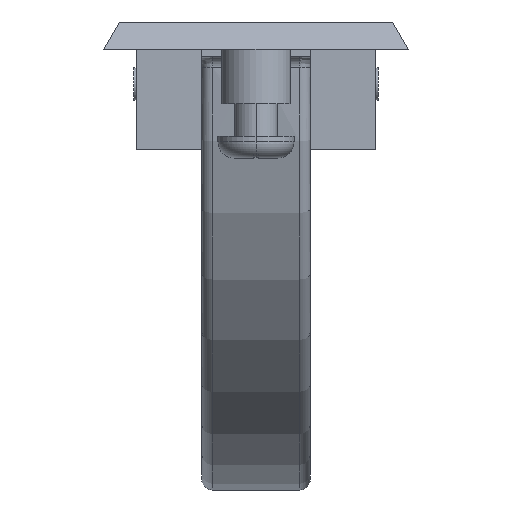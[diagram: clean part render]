
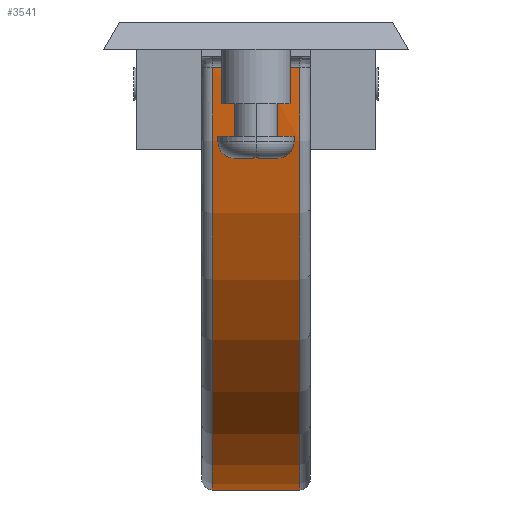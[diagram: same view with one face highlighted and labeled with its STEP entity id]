
A CAD part, front view. The second image highlights one B-rep face of the part: STEP entity #3541.
In plain terms, the highlighted cylindrical face has radius 39.8 mm (diameter 79.6 mm), a partial arc.
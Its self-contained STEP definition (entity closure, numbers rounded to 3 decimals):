
#35 = FACE_OUTER_BOUND ( 'NONE', #3322, .T. ) ;
#171 = EDGE_CURVE ( 'NONE', #861, #685, #2838, .T. ) ;
#175 = VERTEX_POINT ( 'NONE', #223 ) ;
#180 = DIRECTION ( 'NONE',  ( -1., 0., 0. ) ) ;
#223 = CARTESIAN_POINT ( 'NONE',  ( 2., -39.598, -4. ) ) ;
#276 = CARTESIAN_POINT ( 'NONE',  ( 5., 39.788, -0.975 ) ) ;
#531 = AXIS2_PLACEMENT_3D ( 'NONE', #4214, #1537, #3252 ) ;
#569 = VERTEX_POINT ( 'NONE', #3643 ) ;
#611 = AXIS2_PLACEMENT_3D ( 'NONE', #2223, #180, #4144 ) ;
#625 = DIRECTION ( 'NONE',  ( 1., 0., 0. ) ) ;
#685 = VERTEX_POINT ( 'NONE', #2423 ) ;
#734 = DIRECTION ( 'NONE',  ( -1., 0., 0. ) ) ;
#801 = ORIENTED_EDGE ( 'NONE', *, *, #1594, .T. ) ;
#809 = ORIENTED_EDGE ( 'NONE', *, *, #2506, .T. ) ;
#861 = VERTEX_POINT ( 'NONE', #989 ) ;
#889 = VECTOR ( 'NONE', #734, 1000. ) ;
#892 = VERTEX_POINT ( 'NONE', #2594 ) ;
#988 = ORIENTED_EDGE ( 'NONE', *, *, #1219, .T. ) ;
#989 = CARTESIAN_POINT ( 'NONE',  ( -4., -39.788, -0.975 ) ) ;
#1036 = VERTEX_POINT ( 'NONE', #2512 ) ;
#1041 = DIRECTION ( 'NONE',  ( 0., 0., 1. ) ) ;
#1198 = DIRECTION ( 'NONE',  ( 1., 0., 0. ) ) ;
#1219 = EDGE_CURVE ( 'NONE', #1540, #861, #1899, .T. ) ;
#1321 = ORIENTED_EDGE ( 'NONE', *, *, #3987, .T. ) ;
#1364 = CIRCLE ( 'NONE', #3802, 39.8 ) ;
#1394 = ORIENTED_EDGE ( 'NONE', *, *, #3041, .F. ) ;
#1506 = VECTOR ( 'NONE', #1198, 1000. ) ;
#1537 = DIRECTION ( 'NONE',  ( -1., 0., 0. ) ) ;
#1540 = VERTEX_POINT ( 'NONE', #3200 ) ;
#1543 = CARTESIAN_POINT ( 'NONE',  ( 5., -39.598, -4. ) ) ;
#1547 = DIRECTION ( 'NONE',  ( 1., 0., 0. ) ) ;
#1550 = EDGE_CURVE ( 'NONE', #3774, #175, #1561, .T. ) ;
#1561 = LINE ( 'NONE', #1543, #2676 ) ;
#1594 = EDGE_CURVE ( 'NONE', #1036, #569, #1606, .T. ) ;
#1606 = LINE ( 'NONE', #276, #1506 ) ;
#1609 = DIRECTION ( 'NONE',  ( 0., 0., -1. ) ) ;
#1638 = AXIS2_PLACEMENT_3D ( 'NONE', #1722, #1678, #3334 ) ;
#1678 = DIRECTION ( 'NONE',  ( 1., 0., 0. ) ) ;
#1722 = CARTESIAN_POINT ( 'NONE',  ( -2., 0., 0. ) ) ;
#1729 = AXIS2_PLACEMENT_3D ( 'NONE', #3549, #1547, #1609 ) ;
#1778 = DIRECTION ( 'NONE',  ( -1., 0., 0. ) ) ;
#1899 = LINE ( 'NONE', #1958, #2607 ) ;
#1958 = CARTESIAN_POINT ( 'NONE',  ( 5., -39.788, -0.975 ) ) ;
#1986 = CARTESIAN_POINT ( 'NONE',  ( 4., -39.788, -0.975 ) ) ;
#2136 = VERTEX_POINT ( 'NONE', #1986 ) ;
#2223 = CARTESIAN_POINT ( 'NONE',  ( 4., 0., 0. ) ) ;
#2232 = DIRECTION ( 'NONE',  ( 1., 0., 0. ) ) ;
#2239 = CARTESIAN_POINT ( 'NONE',  ( 2., 0., 0. ) ) ;
#2336 = CARTESIAN_POINT ( 'NONE',  ( 5., -39.788, -0.975 ) ) ;
#2337 = ORIENTED_EDGE ( 'NONE', *, *, #171, .T. ) ;
#2389 = CIRCLE ( 'NONE', #531, 39.8 ) ;
#2423 = CARTESIAN_POINT ( 'NONE',  ( -4., 0., -39.8 ) ) ;
#2440 = EDGE_CURVE ( 'NONE', #685, #1036, #1364, .T. ) ;
#2460 = EDGE_CURVE ( 'NONE', #2960, #2136, #3377, .T. ) ;
#2482 = AXIS2_PLACEMENT_3D ( 'NONE', #2760, #1778, #1041 ) ;
#2506 = EDGE_CURVE ( 'NONE', #892, #175, #3301, .T. ) ;
#2512 = CARTESIAN_POINT ( 'NONE',  ( -4., 39.788, -0.975 ) ) ;
#2594 = CARTESIAN_POINT ( 'NONE',  ( 2., -39.788, -0.975 ) ) ;
#2607 = VECTOR ( 'NONE', #2878, 1000. ) ;
#2676 = VECTOR ( 'NONE', #2232, 1000. ) ;
#2760 = CARTESIAN_POINT ( 'NONE',  ( 5., 0., 0. ) ) ;
#2812 = DIRECTION ( 'NONE',  ( 0., 0., -1. ) ) ;
#2837 = ORIENTED_EDGE ( 'NONE', *, *, #1550, .F. ) ;
#2838 = CIRCLE ( 'NONE', #1729, 39.8 ) ;
#2878 = DIRECTION ( 'NONE',  ( -1., 0., 0. ) ) ;
#2937 = EDGE_CURVE ( 'NONE', #569, #2960, #2389, .T. ) ;
#2960 = VERTEX_POINT ( 'NONE', #3888 ) ;
#2994 = LINE ( 'NONE', #2336, #889 ) ;
#3041 = EDGE_CURVE ( 'NONE', #1540, #3774, #3869, .T. ) ;
#3086 = ORIENTED_EDGE ( 'NONE', *, *, #2440, .T. ) ;
#3105 = CYLINDRICAL_SURFACE ( 'NONE', #2482, 39.8 ) ;
#3158 = CARTESIAN_POINT ( 'NONE',  ( -4., 0., 0. ) ) ;
#3197 = ORIENTED_EDGE ( 'NONE', *, *, #2460, .T. ) ;
#3200 = CARTESIAN_POINT ( 'NONE',  ( -2., -39.788, -0.975 ) ) ;
#3252 = DIRECTION ( 'NONE',  ( 0., 0., -1. ) ) ;
#3301 = CIRCLE ( 'NONE', #3380, 39.8 ) ;
#3322 = EDGE_LOOP ( 'NONE', ( #1321, #809, #2837, #1394, #988, #2337, #3086, #801, #3402, #3197 ) ) ;
#3334 = DIRECTION ( 'NONE',  ( 0., 0., -1. ) ) ;
#3377 = CIRCLE ( 'NONE', #611, 39.8 ) ;
#3380 = AXIS2_PLACEMENT_3D ( 'NONE', #2239, #625, #4297 ) ;
#3402 = ORIENTED_EDGE ( 'NONE', *, *, #2937, .T. ) ;
#3541 = ADVANCED_FACE ( 'NONE', ( #35 ), #3105, .T. ) ;
#3549 = CARTESIAN_POINT ( 'NONE',  ( -4., 0., 0. ) ) ;
#3643 = CARTESIAN_POINT ( 'NONE',  ( 4., 39.788, -0.975 ) ) ;
#3774 = VERTEX_POINT ( 'NONE', #3873 ) ;
#3802 = AXIS2_PLACEMENT_3D ( 'NONE', #3158, #4211, #2812 ) ;
#3869 = CIRCLE ( 'NONE', #1638, 39.8 ) ;
#3873 = CARTESIAN_POINT ( 'NONE',  ( -2., -39.598, -4. ) ) ;
#3888 = CARTESIAN_POINT ( 'NONE',  ( 4., 0., -39.8 ) ) ;
#3987 = EDGE_CURVE ( 'NONE', #2136, #892, #2994, .T. ) ;
#4144 = DIRECTION ( 'NONE',  ( 0., 0., -1. ) ) ;
#4211 = DIRECTION ( 'NONE',  ( 1., 0., 0. ) ) ;
#4214 = CARTESIAN_POINT ( 'NONE',  ( 4., 0., 0. ) ) ;
#4297 = DIRECTION ( 'NONE',  ( 0., 0., -1. ) ) ;
